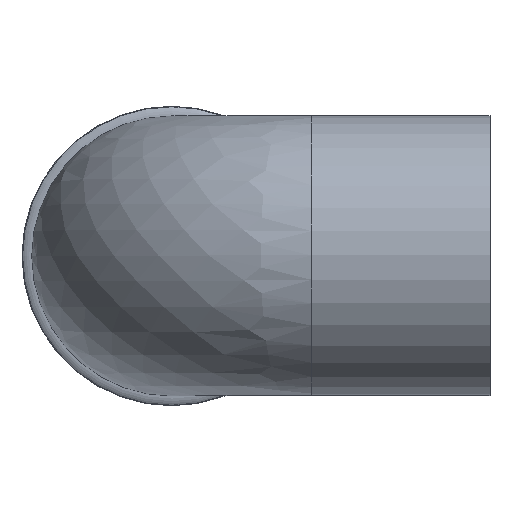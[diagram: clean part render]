
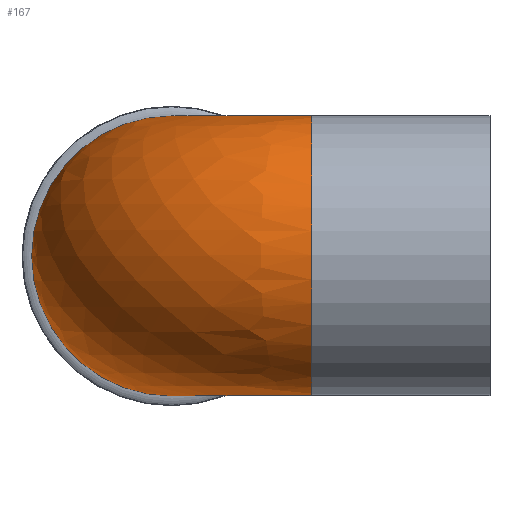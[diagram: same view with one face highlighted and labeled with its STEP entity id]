
A CAD part, top view. The second image highlights one B-rep face of the part: STEP entity #167.
In plain terms, the highlighted free-form (B-spline) face has degree [2, 2] with [9, 9] control points.
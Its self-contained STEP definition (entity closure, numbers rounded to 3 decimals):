
#16=(
BOUNDED_SURFACE()
B_SPLINE_SURFACE(2,2,((#291,#292,#293,#294,#295,#296,#297,#298,#299),(#300,
#301,#302,#303,#304,#305,#306,#307,#308),(#309,#310,#311,#312,#313,#314,
#315,#316,#317),(#318,#319,#320,#321,#322,#323,#324,#325,#326),(#327,#328,
#329,#330,#331,#332,#333,#334,#335),(#336,#337,#338,#339,#340,#341,#342,
#343,#344),(#345,#346,#347,#348,#349,#350,#351,#352,#353),(#354,#355,#356,
#357,#358,#359,#360,#361,#362),(#363,#364,#365,#366,#367,#368,#369,#370,
#371)),.UNSPECIFIED.,.T.,.T.,.F.)
B_SPLINE_SURFACE_WITH_KNOTS((3,2,2,2,3),(3,2,2,2,3),(-3.142,
-1.571,0.,1.571,3.142),(-3.142,
-1.571,0.,1.571,3.142),.UNSPECIFIED.)
GEOMETRIC_REPRESENTATION_ITEM()
RATIONAL_B_SPLINE_SURFACE(((1.,0.707,1.,0.707,1.,
0.707,1.,0.707,1.),(0.707,0.5,0.707,
0.5,0.707,0.5,0.707,0.5,0.707),(1.,
0.707,1.,0.707,1.,0.707,1.,0.707,
1.),(0.707,0.5,0.707,0.5,
0.707,0.5,0.707,0.5,
0.707),(1.,0.707,1.,0.707,1.,0.707,
1.,0.707,1.),(0.707,0.5,0.707,
0.5,0.707,0.5,0.707,
0.5,0.707),(1.,0.707,1.,0.707,
1.,0.707,1.,0.707,1.),(0.707,0.5,0.707,
0.5,0.707,0.5,0.707,0.5,0.707),(1.,
0.707,1.,0.707,1.,0.707,1.,0.707,
1.)))
REPRESENTATION_ITEM($)
SURFACE()
);
#51=FACE_OUTER_BOUND($,#73,.T.);
#73=EDGE_LOOP($,(#136,#137));
#89=CIRCLE($,#194,25.075);
#90=CIRCLE($,#195,25.075);
#102=VERTEX_POINT($,#289);
#114=EDGE_CURVE($,#102,#102,#89,.T.);
#115=EDGE_CURVE($,#102,#102,#90,.T.);
#136=ORIENTED_EDGE($,*,*,#114,.T.);
#137=ORIENTED_EDGE($,*,*,#115,.F.);
#167=ADVANCED_FACE($,(#51),#16,.F.);
#194=AXIS2_PLACEMENT_3D($,#290,#244,#245);
#195=AXIS2_PLACEMENT_3D($,#372,#246,#247);
#244=DIRECTION('center_axis',(-1.,0.,0.));
#245=DIRECTION('ref_axis',(0.,0.,1.));
#246=DIRECTION('center_axis',(0.,0.,-1.));
#247=DIRECTION('ref_axis',(-1.,0.,0.));
#289=CARTESIAN_POINT('',(25.075,0.,57.25));
#290=CARTESIAN_POINT('Origin',(25.075,0.,82.325));
#291=CARTESIAN_POINT('Ctrl Pts',(25.075,0.,57.25));
#292=CARTESIAN_POINT('Ctrl Pts',(25.075,0.,57.25));
#293=CARTESIAN_POINT('Ctrl Pts',(25.075,0.,57.25));
#294=CARTESIAN_POINT('Ctrl Pts',(25.075,0.,57.25));
#295=CARTESIAN_POINT('Ctrl Pts',(25.075,0.,57.25));
#296=CARTESIAN_POINT('Ctrl Pts',(25.075,0.,57.25));
#297=CARTESIAN_POINT('Ctrl Pts',(25.075,0.,57.25));
#298=CARTESIAN_POINT('Ctrl Pts',(25.075,0.,57.25));
#299=CARTESIAN_POINT('Ctrl Pts',(25.075,0.,57.25));
#300=CARTESIAN_POINT('Ctrl Pts',(25.075,-25.075,57.25));
#301=CARTESIAN_POINT('Ctrl Pts',(25.075,-25.075,57.25));
#302=CARTESIAN_POINT('Ctrl Pts',(25.075,-25.075,57.25));
#303=CARTESIAN_POINT('Ctrl Pts',(25.075,-25.075,57.25));
#304=CARTESIAN_POINT('Ctrl Pts',(25.075,-25.075,57.25));
#305=CARTESIAN_POINT('Ctrl Pts',(25.075,-25.075,57.25));
#306=CARTESIAN_POINT('Ctrl Pts',(25.075,-25.075,57.25));
#307=CARTESIAN_POINT('Ctrl Pts',(25.075,-25.075,57.25));
#308=CARTESIAN_POINT('Ctrl Pts',(25.075,-25.075,57.25));
#309=CARTESIAN_POINT('Ctrl Pts',(25.075,-25.075,32.175));
#310=CARTESIAN_POINT('Ctrl Pts',(0.,-25.075,32.175));
#311=CARTESIAN_POINT('Ctrl Pts',(0.,-25.075,57.25));
#312=CARTESIAN_POINT('Ctrl Pts',(0.,-25.075,82.325));
#313=CARTESIAN_POINT('Ctrl Pts',(25.075,-25.075,82.325));
#314=CARTESIAN_POINT('Ctrl Pts',(50.15,-25.075,82.325));
#315=CARTESIAN_POINT('Ctrl Pts',(50.15,-25.075,57.25));
#316=CARTESIAN_POINT('Ctrl Pts',(50.15,-25.075,32.175));
#317=CARTESIAN_POINT('Ctrl Pts',(25.075,-25.075,32.175));
#318=CARTESIAN_POINT('Ctrl Pts',(25.075,-25.075,7.1));
#319=CARTESIAN_POINT('Ctrl Pts',(-25.075,-25.075,7.1));
#320=CARTESIAN_POINT('Ctrl Pts',(-25.075,-25.075,57.25));
#321=CARTESIAN_POINT('Ctrl Pts',(-25.075,-25.075,107.4));
#322=CARTESIAN_POINT('Ctrl Pts',(25.075,-25.075,107.4));
#323=CARTESIAN_POINT('Ctrl Pts',(75.225,-25.075,107.4));
#324=CARTESIAN_POINT('Ctrl Pts',(75.225,-25.075,57.25));
#325=CARTESIAN_POINT('Ctrl Pts',(75.225,-25.075,7.1));
#326=CARTESIAN_POINT('Ctrl Pts',(25.075,-25.075,7.1));
#327=CARTESIAN_POINT('Ctrl Pts',(25.075,0.,7.1));
#328=CARTESIAN_POINT('Ctrl Pts',(-25.075,0.,7.1));
#329=CARTESIAN_POINT('Ctrl Pts',(-25.075,0.,57.25));
#330=CARTESIAN_POINT('Ctrl Pts',(-25.075,0.,107.4));
#331=CARTESIAN_POINT('Ctrl Pts',(25.075,0.,107.4));
#332=CARTESIAN_POINT('Ctrl Pts',(75.225,0.,107.4));
#333=CARTESIAN_POINT('Ctrl Pts',(75.225,0.,57.25));
#334=CARTESIAN_POINT('Ctrl Pts',(75.225,0.,7.1));
#335=CARTESIAN_POINT('Ctrl Pts',(25.075,0.,7.1));
#336=CARTESIAN_POINT('Ctrl Pts',(25.075,25.075,7.1));
#337=CARTESIAN_POINT('Ctrl Pts',(-25.075,25.075,7.1));
#338=CARTESIAN_POINT('Ctrl Pts',(-25.075,25.075,57.25));
#339=CARTESIAN_POINT('Ctrl Pts',(-25.075,25.075,107.4));
#340=CARTESIAN_POINT('Ctrl Pts',(25.075,25.075,107.4));
#341=CARTESIAN_POINT('Ctrl Pts',(75.225,25.075,107.4));
#342=CARTESIAN_POINT('Ctrl Pts',(75.225,25.075,57.25));
#343=CARTESIAN_POINT('Ctrl Pts',(75.225,25.075,7.1));
#344=CARTESIAN_POINT('Ctrl Pts',(25.075,25.075,7.1));
#345=CARTESIAN_POINT('Ctrl Pts',(25.075,25.075,32.175));
#346=CARTESIAN_POINT('Ctrl Pts',(0.,25.075,32.175));
#347=CARTESIAN_POINT('Ctrl Pts',(0.,25.075,57.25));
#348=CARTESIAN_POINT('Ctrl Pts',(0.,25.075,82.325));
#349=CARTESIAN_POINT('Ctrl Pts',(25.075,25.075,82.325));
#350=CARTESIAN_POINT('Ctrl Pts',(50.15,25.075,82.325));
#351=CARTESIAN_POINT('Ctrl Pts',(50.15,25.075,57.25));
#352=CARTESIAN_POINT('Ctrl Pts',(50.15,25.075,32.175));
#353=CARTESIAN_POINT('Ctrl Pts',(25.075,25.075,32.175));
#354=CARTESIAN_POINT('Ctrl Pts',(25.075,25.075,57.25));
#355=CARTESIAN_POINT('Ctrl Pts',(25.075,25.075,57.25));
#356=CARTESIAN_POINT('Ctrl Pts',(25.075,25.075,57.25));
#357=CARTESIAN_POINT('Ctrl Pts',(25.075,25.075,57.25));
#358=CARTESIAN_POINT('Ctrl Pts',(25.075,25.075,57.25));
#359=CARTESIAN_POINT('Ctrl Pts',(25.075,25.075,57.25));
#360=CARTESIAN_POINT('Ctrl Pts',(25.075,25.075,57.25));
#361=CARTESIAN_POINT('Ctrl Pts',(25.075,25.075,57.25));
#362=CARTESIAN_POINT('Ctrl Pts',(25.075,25.075,57.25));
#363=CARTESIAN_POINT('Ctrl Pts',(25.075,0.,57.25));
#364=CARTESIAN_POINT('Ctrl Pts',(25.075,0.,57.25));
#365=CARTESIAN_POINT('Ctrl Pts',(25.075,0.,57.25));
#366=CARTESIAN_POINT('Ctrl Pts',(25.075,0.,57.25));
#367=CARTESIAN_POINT('Ctrl Pts',(25.075,0.,57.25));
#368=CARTESIAN_POINT('Ctrl Pts',(25.075,0.,57.25));
#369=CARTESIAN_POINT('Ctrl Pts',(25.075,0.,57.25));
#370=CARTESIAN_POINT('Ctrl Pts',(25.075,0.,57.25));
#371=CARTESIAN_POINT('Ctrl Pts',(25.075,0.,57.25));
#372=CARTESIAN_POINT('Origin',(0.,0.,57.25));
